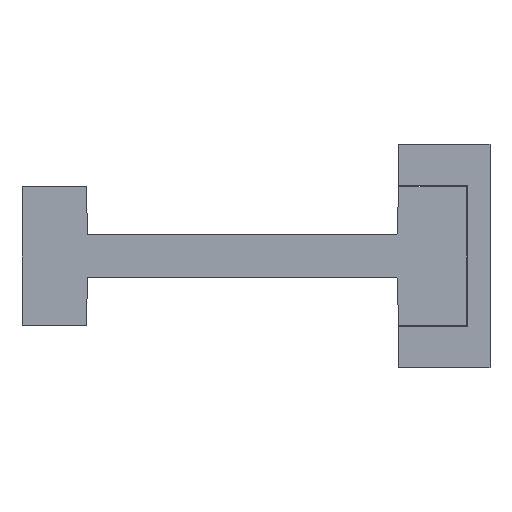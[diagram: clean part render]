
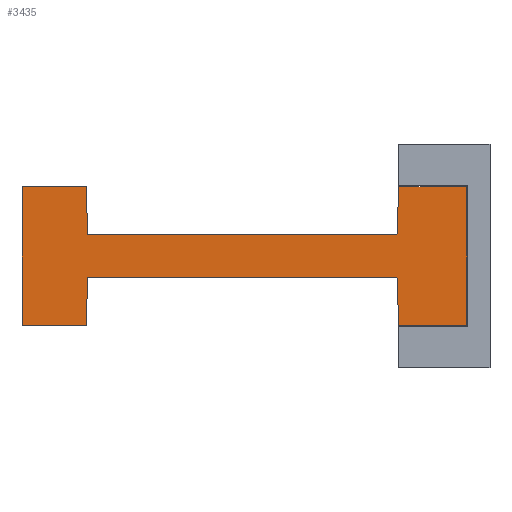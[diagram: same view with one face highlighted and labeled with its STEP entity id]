
A CAD part, left-side view. The second image highlights one B-rep face of the part: STEP entity #3435.
In plain terms, the highlighted planar face has unit normal (-1, 0, 0).
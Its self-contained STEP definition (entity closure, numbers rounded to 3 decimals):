
#23 = DIRECTION ( 'NONE',  ( 0., -1., 0. ) ) ;
#238 = CARTESIAN_POINT ( 'NONE',  ( -84.097, 54.903, 51.329 ) ) ;
#263 = VERTEX_POINT ( 'NONE', #2733 ) ;
#467 = DIRECTION ( 'NONE',  ( 0., 0., 1. ) ) ;
#481 = EDGE_CURVE ( 'NONE', #7168, #6856, #2717, .T. ) ;
#498 = ORIENTED_EDGE ( 'NONE', *, *, #9013, .F. ) ;
#573 = LINE ( 'NONE', #6866, #1614 ) ;
#626 = CARTESIAN_POINT ( 'NONE',  ( -84.097, 66.503, 27.629 ) ) ;
#742 = DIRECTION ( 'NONE',  ( 0., -1., 0. ) ) ;
#869 = EDGE_CURVE ( 'NONE', #1144, #263, #9416, .T. ) ;
#923 = VECTOR ( 'NONE', #4660, 1000. ) ;
#1037 = VERTEX_POINT ( 'NONE', #4200 ) ;
#1144 = VERTEX_POINT ( 'NONE', #626 ) ;
#1250 = ORIENTED_EDGE ( 'NONE', *, *, #1872, .T. ) ;
#1263 = CARTESIAN_POINT ( 'NONE',  ( -84.097, 119.703, 43.079 ) ) ;
#1276 = CARTESIAN_POINT ( 'NONE',  ( -84.097, 54.903, 27.629 ) ) ;
#1407 = CARTESIAN_POINT ( 'NONE',  ( -84.097, 130.903, 51.329 ) ) ;
#1423 = VERTEX_POINT ( 'NONE', #6623 ) ;
#1454 = LINE ( 'NONE', #8575, #5858 ) ;
#1565 = CARTESIAN_POINT ( 'NONE',  ( -84.097, 66.503, 51.329 ) ) ;
#1614 = VECTOR ( 'NONE', #9099, 1000. ) ;
#1714 = DIRECTION ( 'NONE',  ( -1., 0., 0. ) ) ;
#1730 = LINE ( 'NONE', #2612, #6011 ) ;
#1777 = VERTEX_POINT ( 'NONE', #238 ) ;
#1872 = EDGE_CURVE ( 'NONE', #3268, #3657, #5311, .T. ) ;
#1884 = DIRECTION ( 'NONE',  ( 0., -1., 0. ) ) ;
#2163 = CARTESIAN_POINT ( 'NONE',  ( -84.097, 66.803, 35.879 ) ) ;
#2259 = ORIENTED_EDGE ( 'NONE', *, *, #869, .T. ) ;
#2268 = CARTESIAN_POINT ( 'NONE',  ( -84.097, 54.903, 27.629 ) ) ;
#2494 = CARTESIAN_POINT ( 'NONE',  ( -84.097, 130.903, 39.479 ) ) ;
#2591 = CARTESIAN_POINT ( 'NONE',  ( -84.097, 130.903, 39.479 ) ) ;
#2612 = CARTESIAN_POINT ( 'NONE',  ( -84.097, 130.903, 51.329 ) ) ;
#2717 = LINE ( 'NONE', #2494, #8032 ) ;
#2733 = CARTESIAN_POINT ( 'NONE',  ( -84.097, 54.903, 27.629 ) ) ;
#2807 = EDGE_CURVE ( 'NONE', #6856, #8050, #1454, .T. ) ;
#3268 = VERTEX_POINT ( 'NONE', #3615 ) ;
#3435 = ADVANCED_FACE ( 'NONE', ( #5845 ), #8809, .T. ) ;
#3615 = CARTESIAN_POINT ( 'NONE',  ( -84.097, 119.703, 35.879 ) ) ;
#3657 = VERTEX_POINT ( 'NONE', #4318 ) ;
#3837 = LINE ( 'NONE', #6108, #9655 ) ;
#3953 = EDGE_CURVE ( 'NONE', #263, #1777, #8294, .T. ) ;
#4081 = EDGE_CURVE ( 'NONE', #8050, #3268, #6112, .T. ) ;
#4182 = CARTESIAN_POINT ( 'NONE',  ( -84.097, 66.803, 35.879 ) ) ;
#4200 = CARTESIAN_POINT ( 'NONE',  ( -84.097, 119.703, 43.079 ) ) ;
#4245 = LINE ( 'NONE', #5128, #5210 ) ;
#4318 = CARTESIAN_POINT ( 'NONE',  ( -84.097, 66.803, 35.879 ) ) ;
#4339 = DIRECTION ( 'NONE',  ( 0., 0., -1. ) ) ;
#4347 = DIRECTION ( 'NONE',  ( 0., -1., 0. ) ) ;
#4425 = EDGE_CURVE ( 'NONE', #1037, #9011, #4245, .T. ) ;
#4480 = CARTESIAN_POINT ( 'NONE',  ( -84.097, 119.903, 27.629 ) ) ;
#4548 = CARTESIAN_POINT ( 'NONE',  ( -84.097, 130.903, 27.629 ) ) ;
#4660 = DIRECTION ( 'NONE',  ( 0., -0.024, 1. ) ) ;
#4804 = LINE ( 'NONE', #4182, #9901 ) ;
#4904 = ORIENTED_EDGE ( 'NONE', *, *, #2807, .T. ) ;
#4911 = DIRECTION ( 'NONE',  ( 0., 0., -1. ) ) ;
#4966 = ORIENTED_EDGE ( 'NONE', *, *, #481, .T. ) ;
#5051 = EDGE_CURVE ( 'NONE', #7168, #1423, #1730, .T. ) ;
#5128 = CARTESIAN_POINT ( 'NONE',  ( -84.097, 66.803, 43.079 ) ) ;
#5210 = VECTOR ( 'NONE', #4347, 1000. ) ;
#5274 = DIRECTION ( 'NONE',  ( 0., -0.024, -1. ) ) ;
#5311 = LINE ( 'NONE', #2163, #5648 ) ;
#5448 = ORIENTED_EDGE ( 'NONE', *, *, #4081, .T. ) ;
#5648 = VECTOR ( 'NONE', #10020, 1000. ) ;
#5722 = ORIENTED_EDGE ( 'NONE', *, *, #4425, .F. ) ;
#5821 = ORIENTED_EDGE ( 'NONE', *, *, #7226, .F. ) ;
#5845 = FACE_OUTER_BOUND ( 'NONE', #6624, .T. ) ;
#5858 = VECTOR ( 'NONE', #742, 1000. ) ;
#5942 = EDGE_CURVE ( 'NONE', #3657, #1144, #4804, .T. ) ;
#6011 = VECTOR ( 'NONE', #1884, 1000. ) ;
#6038 = ORIENTED_EDGE ( 'NONE', *, *, #5051, .F. ) ;
#6108 = CARTESIAN_POINT ( 'NONE',  ( -84.097, 66.803, 43.079 ) ) ;
#6112 = LINE ( 'NONE', #9441, #923 ) ;
#6198 = AXIS2_PLACEMENT_3D ( 'NONE', #2591, #1714, #4911 ) ;
#6613 = VERTEX_POINT ( 'NONE', #1565 ) ;
#6623 = CARTESIAN_POINT ( 'NONE',  ( -84.097, 119.903, 51.329 ) ) ;
#6624 = EDGE_LOOP ( 'NONE', ( #9301, #5821, #8677, #5722, #498, #6038, #4966, #4904, #5448, #1250, #8799, #2259 ) ) ;
#6708 = CARTESIAN_POINT ( 'NONE',  ( -84.097, 66.803, 43.079 ) ) ;
#6856 = VERTEX_POINT ( 'NONE', #4548 ) ;
#6866 = CARTESIAN_POINT ( 'NONE',  ( -84.097, 54.903, 51.329 ) ) ;
#6891 = LINE ( 'NONE', #1263, #9154 ) ;
#7168 = VERTEX_POINT ( 'NONE', #1407 ) ;
#7226 = EDGE_CURVE ( 'NONE', #6613, #1777, #573, .T. ) ;
#8032 = VECTOR ( 'NONE', #4339, 1000. ) ;
#8050 = VERTEX_POINT ( 'NONE', #4480 ) ;
#8294 = LINE ( 'NONE', #1276, #9010 ) ;
#8575 = CARTESIAN_POINT ( 'NONE',  ( -84.097, 130.903, 27.629 ) ) ;
#8677 = ORIENTED_EDGE ( 'NONE', *, *, #8806, .F. ) ;
#8799 = ORIENTED_EDGE ( 'NONE', *, *, #5942, .T. ) ;
#8806 = EDGE_CURVE ( 'NONE', #9011, #6613, #3837, .T. ) ;
#8809 = PLANE ( 'NONE',  #6198 ) ;
#9010 = VECTOR ( 'NONE', #467, 1000. ) ;
#9011 = VERTEX_POINT ( 'NONE', #6708 ) ;
#9013 = EDGE_CURVE ( 'NONE', #1423, #1037, #6891, .T. ) ;
#9099 = DIRECTION ( 'NONE',  ( 0., -1., 0. ) ) ;
#9154 = VECTOR ( 'NONE', #5274, 1000. ) ;
#9295 = DIRECTION ( 'NONE',  ( 0., -0.036, 0.999 ) ) ;
#9301 = ORIENTED_EDGE ( 'NONE', *, *, #3953, .T. ) ;
#9373 = VECTOR ( 'NONE', #23, 1000. ) ;
#9416 = LINE ( 'NONE', #2268, #9373 ) ;
#9441 = CARTESIAN_POINT ( 'NONE',  ( -84.097, 119.703, 35.879 ) ) ;
#9599 = DIRECTION ( 'NONE',  ( 0., -0.036, -0.999 ) ) ;
#9655 = VECTOR ( 'NONE', #9295, 1000. ) ;
#9901 = VECTOR ( 'NONE', #9599, 1000. ) ;
#10020 = DIRECTION ( 'NONE',  ( 0., -1., 0. ) ) ;
